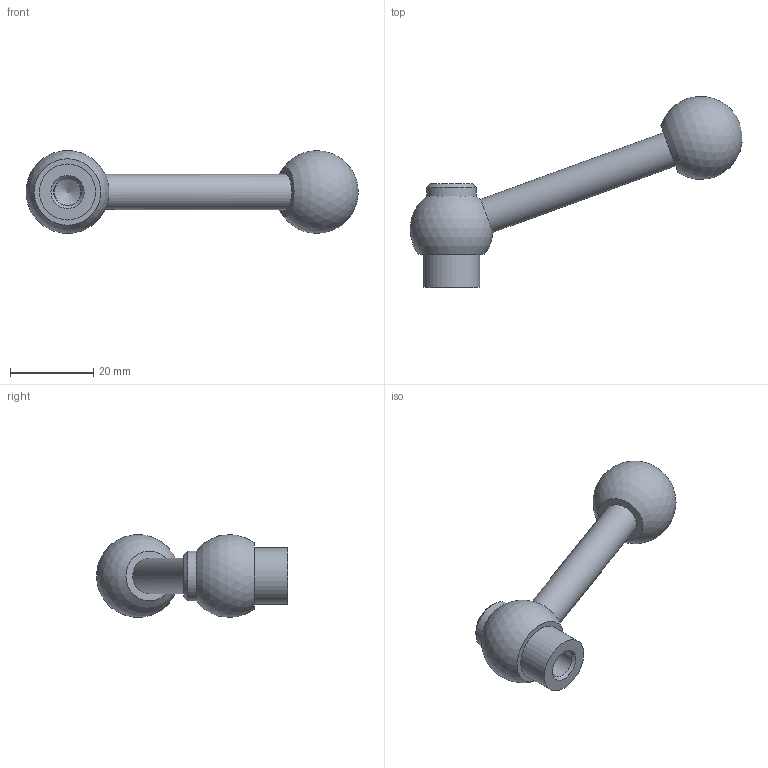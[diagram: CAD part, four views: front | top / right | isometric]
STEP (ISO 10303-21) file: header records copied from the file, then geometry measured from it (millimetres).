
FILE_DESCRIPTION( ( 'STEP AP203' ), '1' );
FILE_NAME( 'C:/Temp/Ganter_Step_05_03_2020/data/2_1/gn_6337_3/gn_6337_3_mb/gn_6337_3_mb_n/Adjustable clamping lever GN 6337.3-20-M8-N.stp', '2020-03-05T11:41:11', ( 'License CC BY-ND 4.0' ), ( 'CADENAS' ), ' ', 'PARTsolutions', ' ' );
FILE_SCHEMA( ( 'CONFIG_CONTROL_DESIGN' ) );
Length unit declared in the file: millimetre
Products named in the file (1): _Adjustable clamping lever GN 6337.3-20-M8-N
Bounding box: 79.93 x 45.99 x 19.85 mm (x, y, z)
Volume: 11325.5 mm3; surface area: 4273.8 mm2
Topology: 1 solids, 1 shells, 15 faces, 29 edges, 18 vertices
Faces by surface type: cylinder 5, plane 5, cone 3, sphere 2
Full cylindrical faces by diameter (mm): 6.4 x1, 6.647 x1, 8.5 x1, 12 x1, 13.5 x1
Entity records: 408 total; most frequent: CARTESIAN_POINT 111, DIRECTION 58, AXIS2_PLACEMENT_3D 29, EDGE_LOOP 28, ORIENTED_EDGE 28, FACE_OUTER_BOUND 21, VERTEX_POINT 16, ADVANCED_FACE 15
